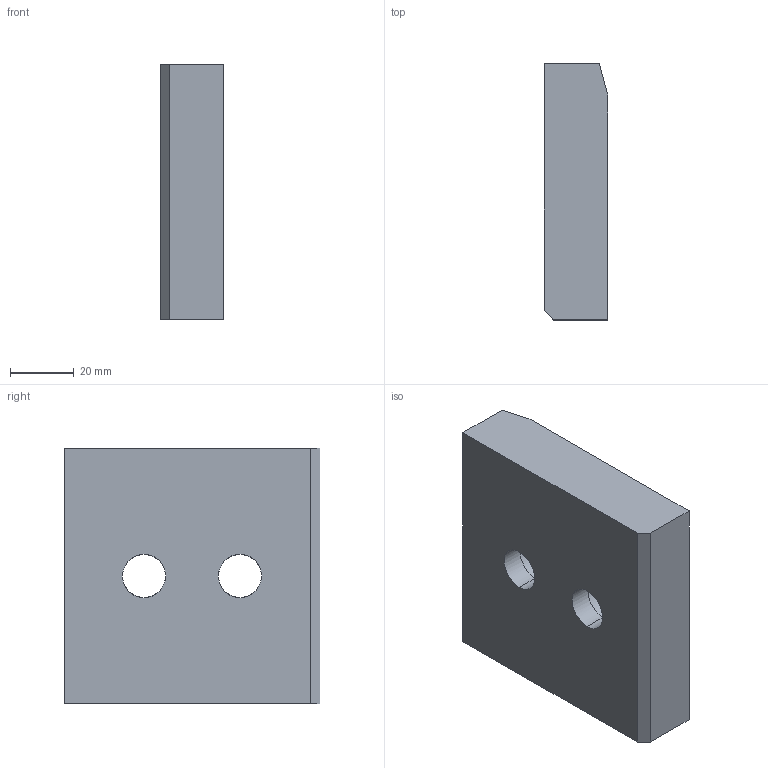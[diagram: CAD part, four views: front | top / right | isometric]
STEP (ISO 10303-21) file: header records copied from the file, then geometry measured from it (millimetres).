
FILE_DESCRIPTION(('CATIA V5 STEP Exchange'),'2;1');
FILE_NAME('C:\Users\borellobunino\Desktop\3D X SITO CF\A915\GSB_OILLESS_G22501080080\A915-80X80.stp','2019-07-14T12:48:56+00:00',('none'),('none'),'CATIA Version 5 Release 20 GA (IN-10)','CATIA V5 STEP AP203','none');
FILE_SCHEMA(('CONFIG_CONTROL_DESIGN'));
Length unit declared in the file: millimetre
Products named in the file (1): A915-80X80
Bounding box: 20 x 80 x 80 mm (x, y, z)
Volume: 116135.6 mm3; surface area: 20337.9 mm2
Topology: 1 solids, 1 shells, 23 faces, 73 edges, 54 vertices
Faces by surface type: plane 10, cylinder 9, torus 4
Entity records: 1057 total; most frequent: CARTESIAN_POINT 375, ORIENTED_EDGE 146, DIRECTION 103, EDGE_CURVE 73, AXIS2_PLACEMENT_3D 54, VERTEX_POINT 54, CIRCLE 30, EDGE_LOOP 29
